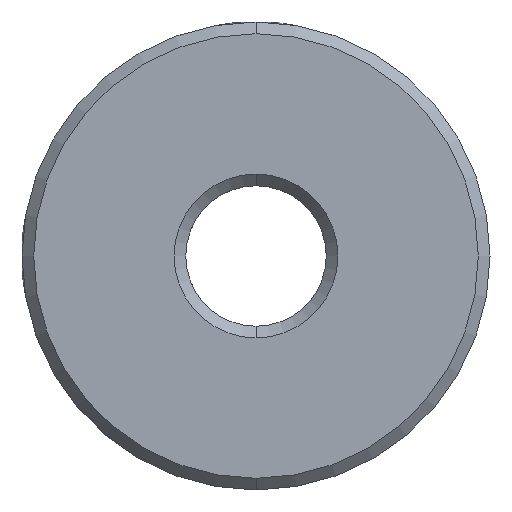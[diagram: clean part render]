
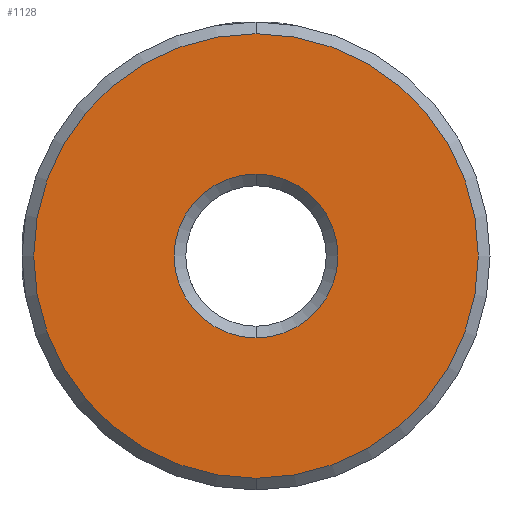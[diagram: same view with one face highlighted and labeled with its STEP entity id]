
A CAD part, front view. The second image highlights one B-rep face of the part: STEP entity #1128.
In plain terms, the highlighted planar face has unit normal (0, -1, 0).
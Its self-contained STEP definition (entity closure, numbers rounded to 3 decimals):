
#30 = PLANE ( 'NONE',  #3202 ) ;
#77 = CIRCLE ( 'NONE', #1505, 9.5 ) ;
#276 = DIRECTION ( 'NONE',  ( 0., 0., 1. ) ) ;
#282 = EDGE_CURVE ( 'NONE', #3522, #1950, #1098, .T. ) ;
#411 = AXIS2_PLACEMENT_3D ( 'NONE', #2728, #1322, #1036 ) ;
#563 = DIRECTION ( 'NONE',  ( 0., 0., 1. ) ) ;
#598 = VERTEX_POINT ( 'NONE', #2503 ) ;
#793 = CIRCLE ( 'NONE', #964, 3.5 ) ;
#964 = AXIS2_PLACEMENT_3D ( 'NONE', #1887, #3008, #2953 ) ;
#1009 = ORIENTED_EDGE ( 'NONE', *, *, #2466, .T. ) ;
#1036 = DIRECTION ( 'NONE',  ( 0., 0., 1. ) ) ;
#1098 = CIRCLE ( 'NONE', #411, 3.5 ) ;
#1128 = ADVANCED_FACE ( 'NONE', ( #1610, #1983 ), #30, .F. ) ;
#1163 = DIRECTION ( 'NONE',  ( 0., 0., 1. ) ) ;
#1218 = EDGE_CURVE ( 'NONE', #3129, #598, #77, .T. ) ;
#1322 = DIRECTION ( 'NONE',  ( 0., 1., 0. ) ) ;
#1354 = CARTESIAN_POINT ( 'NONE',  ( -10.188, -0.277, 0.046 ) ) ;
#1421 = CARTESIAN_POINT ( 'NONE',  ( -10.188, -0.277, 0.046 ) ) ;
#1505 = AXIS2_PLACEMENT_3D ( 'NONE', #1354, #3303, #1163 ) ;
#1535 = EDGE_CURVE ( 'NONE', #1950, #3522, #793, .T. ) ;
#1610 = FACE_OUTER_BOUND ( 'NONE', #3283, .T. ) ;
#1633 = CARTESIAN_POINT ( 'NONE',  ( -10.188, -0.277, 0.046 ) ) ;
#1656 = CARTESIAN_POINT ( 'NONE',  ( -10.188, -0.277, 3.546 ) ) ;
#1705 = DIRECTION ( 'NONE',  ( 0., 1., 0. ) ) ;
#1756 = ORIENTED_EDGE ( 'NONE', *, *, #282, .T. ) ;
#1879 = ORIENTED_EDGE ( 'NONE', *, *, #1535, .T. ) ;
#1886 = EDGE_LOOP ( 'NONE', ( #1879, #1756 ) ) ;
#1887 = CARTESIAN_POINT ( 'NONE',  ( -10.188, -0.277, 0.046 ) ) ;
#1950 = VERTEX_POINT ( 'NONE', #3106 ) ;
#1983 = FACE_BOUND ( 'NONE', #1886, .T. ) ;
#2466 = EDGE_CURVE ( 'NONE', #598, #3129, #3363, .T. ) ;
#2503 = CARTESIAN_POINT ( 'NONE',  ( -10.188, -0.277, -9.454 ) ) ;
#2707 = CARTESIAN_POINT ( 'NONE',  ( -10.188, -0.277, 9.546 ) ) ;
#2728 = CARTESIAN_POINT ( 'NONE',  ( -10.188, -0.277, 0.046 ) ) ;
#2769 = DIRECTION ( 'NONE',  ( 0., -1., 0. ) ) ;
#2809 = ORIENTED_EDGE ( 'NONE', *, *, #1218, .T. ) ;
#2953 = DIRECTION ( 'NONE',  ( 0., 0., 1. ) ) ;
#3008 = DIRECTION ( 'NONE',  ( 0., 1., 0. ) ) ;
#3106 = CARTESIAN_POINT ( 'NONE',  ( -10.188, -0.277, -3.454 ) ) ;
#3129 = VERTEX_POINT ( 'NONE', #2707 ) ;
#3202 = AXIS2_PLACEMENT_3D ( 'NONE', #1421, #1705, #563 ) ;
#3283 = EDGE_LOOP ( 'NONE', ( #2809, #1009 ) ) ;
#3303 = DIRECTION ( 'NONE',  ( 0., -1., 0. ) ) ;
#3363 = CIRCLE ( 'NONE', #3546, 9.5 ) ;
#3522 = VERTEX_POINT ( 'NONE', #1656 ) ;
#3546 = AXIS2_PLACEMENT_3D ( 'NONE', #1633, #2769, #276 ) ;
